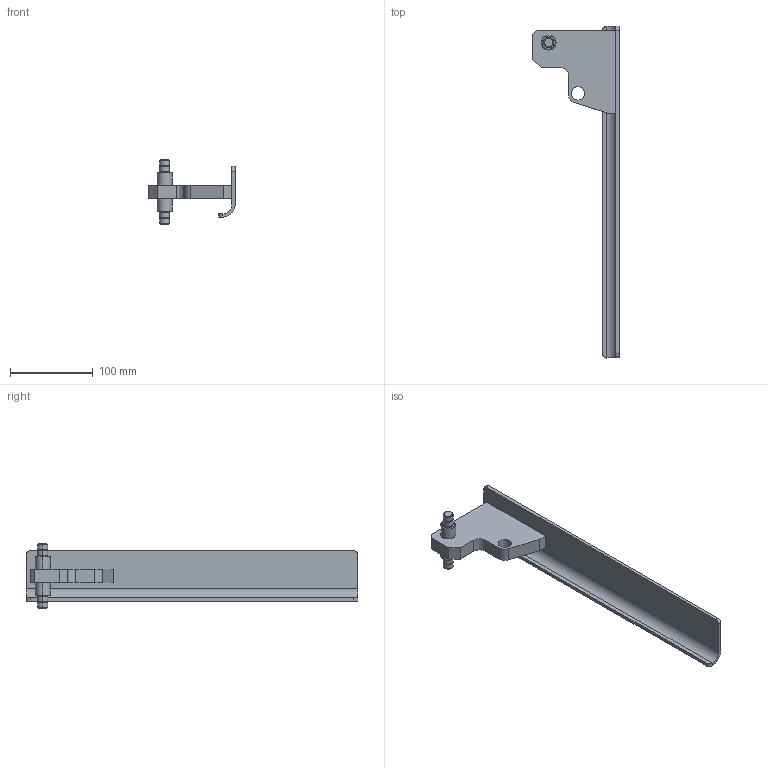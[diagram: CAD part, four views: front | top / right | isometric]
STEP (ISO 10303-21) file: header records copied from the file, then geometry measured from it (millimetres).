
FILE_DESCRIPTION (( 'STEP AP214' ), '1' );
FILE_NAME ('⑤_ﾌﾗｯﾌﾟ折り.STEP', '2024-05-07T00:19:07', ( '' ), ( '' ), 'SwSTEP 2.0', 'SolidWorks 2023', '' );
FILE_SCHEMA (( 'AUTOMOTIVE_DESIGN' ));
Length unit declared in the file: millimetre
Products named in the file (1): ⑤_ﾌﾗｯﾌﾟ折り
Bounding box: 104 x 400 x 78 mm (x, y, z)
Volume: 240687.8 mm3; surface area: 80979.3 mm2
Topology: 1 solids, 1 shells, 64 faces, 143 edges, 90 vertices
Faces by surface type: cylinder 26, plane 26, cone 8, torus 4
Entity records: 1814 total; most frequent: DIRECTION 341, CARTESIAN_POINT 298, ORIENTED_EDGE 286, EDGE_CURVE 143, AXIS2_PLACEMENT_3D 133, VERTEX_POINT 90, LINE 75, EDGE_LOOP 75
